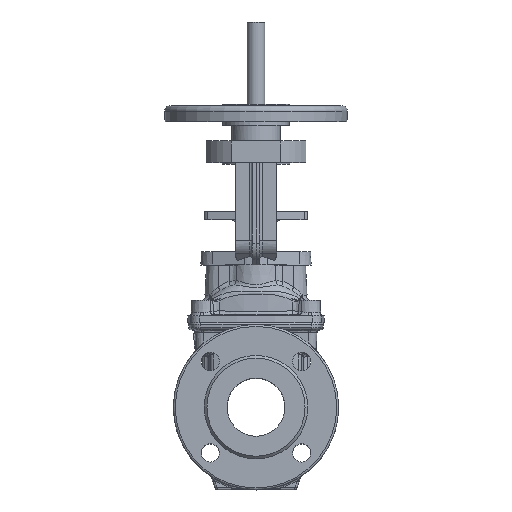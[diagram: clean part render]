
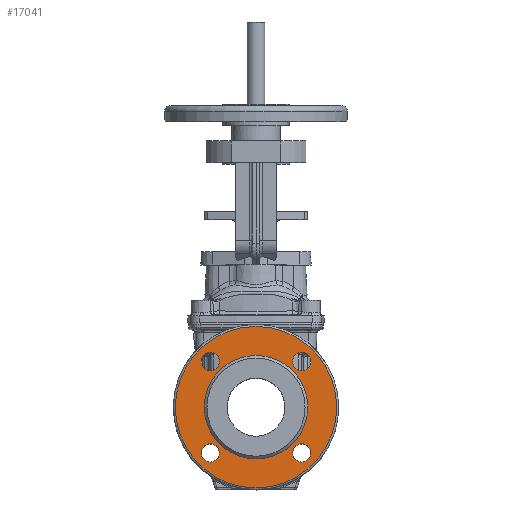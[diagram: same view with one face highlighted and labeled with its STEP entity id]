
A CAD part, top view. The second image highlights one B-rep face of the part: STEP entity #17041.
In plain terms, the highlighted planar face has unit normal (0, 0, 1).
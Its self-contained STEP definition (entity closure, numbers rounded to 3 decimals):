
#3254 = EDGE_LOOP ( 'NONE', ( #5214 ) ) ;
#3261 = EDGE_LOOP ( 'NONE', ( #5360 ) ) ;
#3262 = EDGE_LOOP ( 'NONE', ( #5359 ) ) ;
#3263 = EDGE_LOOP ( 'NONE', ( #5219 ) ) ;
#3264 = EDGE_LOOP ( 'NONE', ( #5361 ) ) ;
#3283 = EDGE_LOOP ( 'NONE', ( #5196 ) ) ;
#5196 = ORIENTED_EDGE ( 'NONE', *, *, #20065, .T. ) ;
#5214 = ORIENTED_EDGE ( 'NONE', *, *, #20241, .T. ) ;
#5219 = ORIENTED_EDGE ( 'NONE', *, *, #19941, .T. ) ;
#5359 = ORIENTED_EDGE ( 'NONE', *, *, #8973, .F. ) ;
#5360 = ORIENTED_EDGE ( 'NONE', *, *, #20114, .F. ) ;
#5361 = ORIENTED_EDGE ( 'NONE', *, *, #9024, .F. ) ;
#8973 = EDGE_CURVE ( 'NONE', #22968, #22968, #18909, .T. ) ;
#9024 = EDGE_CURVE ( 'NONE', #22969, #22969, #19004, .T. ) ;
#9165 = AXIS2_PLACEMENT_3D ( 'NONE', #9956, #9957, #9958 ) ;
#9205 = AXIS2_PLACEMENT_3D ( 'NONE', #10373, #10374, #10375 ) ;
#9220 = AXIS2_PLACEMENT_3D ( 'NONE', #10550, #10551, #10552 ) ;
#9270 = AXIS2_PLACEMENT_3D ( 'NONE', #21744, #21745, #21746 ) ;
#9956 = CARTESIAN_POINT ( 'NONE',  ( 0., 0., 92. ) ) ;
#9957 = DIRECTION ( 'NONE',  ( 0., 0., 1. ) ) ;
#9958 = DIRECTION ( 'NONE',  ( 0., -1., 0. ) ) ;
#10373 = CARTESIAN_POINT ( 'NONE',  ( 51.265, -51.265, 92. ) ) ;
#10374 = DIRECTION ( 'NONE',  ( 0., 0., -1. ) ) ;
#10375 = DIRECTION ( 'NONE',  ( 0., -1., 0. ) ) ;
#10550 = CARTESIAN_POINT ( 'NONE',  ( -51.265, -51.265, 92. ) ) ;
#10551 = DIRECTION ( 'NONE',  ( 0., 0., 1. ) ) ;
#10552 = DIRECTION ( 'NONE',  ( 0., -1., 0. ) ) ;
#17041 = ADVANCED_FACE ( 'NONE', ( #26140, #26151, #26149, #26146, #26148, #26152 ), #23416, .T. ) ;
#18909 = CIRCLE ( 'NONE', #32839, 10.25 ) ;
#19004 = CIRCLE ( 'NONE', #32856, 58. ) ;
#19941 = EDGE_CURVE ( 'NONE', #22971, #22971, #26361, .T. ) ;
#20065 = EDGE_CURVE ( 'NONE', #22973, #22973, #26492, .T. ) ;
#20114 = EDGE_CURVE ( 'NONE', #22974, #22974, #26545, .T. ) ;
#20241 = EDGE_CURVE ( 'NONE', #22976, #22976, #20413, .T. ) ;
#20413 = CIRCLE ( 'NONE', #9270, 10.25 ) ;
#21744 = CARTESIAN_POINT ( 'NONE',  ( 51.265, 51.265, 92. ) ) ;
#21745 = DIRECTION ( 'NONE',  ( 0., 0., -1. ) ) ;
#21746 = DIRECTION ( 'NONE',  ( 0., -1., 0. ) ) ;
#22818 = CARTESIAN_POINT ( 'NONE',  ( -51.265, 41.015, 92. ) ) ;
#22819 = CARTESIAN_POINT ( 'NONE',  ( 0., -58., 92. ) ) ;
#22821 = CARTESIAN_POINT ( 'NONE',  ( 0., -90.5, 92. ) ) ;
#22823 = CARTESIAN_POINT ( 'NONE',  ( 51.265, -61.515, 92. ) ) ;
#22824 = CARTESIAN_POINT ( 'NONE',  ( -51.265, -61.515, 92. ) ) ;
#22826 = CARTESIAN_POINT ( 'NONE',  ( 51.265, 41.015, 92. ) ) ;
#22968 = VERTEX_POINT ( 'NONE', #22818 ) ;
#22969 = VERTEX_POINT ( 'NONE', #22819 ) ;
#22971 = VERTEX_POINT ( 'NONE', #22821 ) ;
#22973 = VERTEX_POINT ( 'NONE', #22823 ) ;
#22974 = VERTEX_POINT ( 'NONE', #22824 ) ;
#22976 = VERTEX_POINT ( 'NONE', #22826 ) ;
#23412 = DIRECTION ( 'NONE',  ( 0., 0., 1. ) ) ;
#23416 = PLANE ( 'NONE',  #33695 ) ;
#23417 = CARTESIAN_POINT ( 'NONE',  ( 0., 58., 92. ) ) ;
#23419 = DIRECTION ( 'NONE',  ( 0., -1., 0. ) ) ;
#24324 = CARTESIAN_POINT ( 'NONE',  ( 0., 0., 92. ) ) ;
#24327 = DIRECTION ( 'NONE',  ( 0., 0., 1. ) ) ;
#24328 = DIRECTION ( 'NONE',  ( 0., -1., 0. ) ) ;
#26140 = FACE_BOUND ( 'NONE', #3283, .T. ) ;
#26146 = FACE_BOUND ( 'NONE', #3262, .T. ) ;
#26148 = FACE_OUTER_BOUND ( 'NONE', #3263, .T. ) ;
#26149 = FACE_BOUND ( 'NONE', #3261, .T. ) ;
#26151 = FACE_BOUND ( 'NONE', #3254, .T. ) ;
#26152 = FACE_BOUND ( 'NONE', #3264, .T. ) ;
#26361 = CIRCLE ( 'NONE', #9165, 90.5 ) ;
#26492 = CIRCLE ( 'NONE', #9205, 10.25 ) ;
#26545 = CIRCLE ( 'NONE', #9220, 10.25 ) ;
#32392 = CARTESIAN_POINT ( 'NONE',  ( -51.265, 51.265, 92. ) ) ;
#32393 = DIRECTION ( 'NONE',  ( 0., 0., 1. ) ) ;
#32394 = DIRECTION ( 'NONE',  ( 0., -1., 0. ) ) ;
#32839 = AXIS2_PLACEMENT_3D ( 'NONE', #32392, #32393, #32394 ) ;
#32856 = AXIS2_PLACEMENT_3D ( 'NONE', #24324, #24327, #24328 ) ;
#33695 = AXIS2_PLACEMENT_3D ( 'NONE', #23417, #23412, #23419 ) ;
